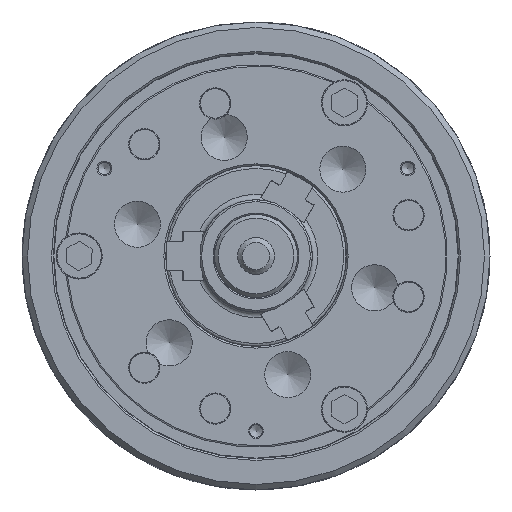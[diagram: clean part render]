
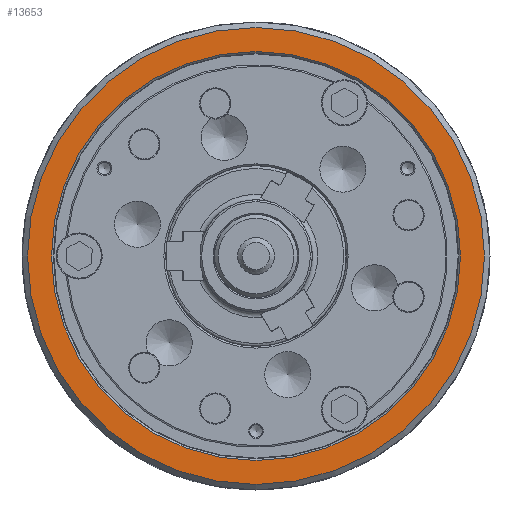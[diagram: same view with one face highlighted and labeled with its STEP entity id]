
A CAD part, left-side view. The second image highlights one B-rep face of the part: STEP entity #13653.
In plain terms, the highlighted planar face has unit normal (-1, 0, 0).
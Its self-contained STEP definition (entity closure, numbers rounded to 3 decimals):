
#831 = ORIENTED_EDGE ( 'NONE', *, *, #24139, .F. ) ;
#981 = FACE_OUTER_BOUND ( 'NONE', #25726, .T. ) ;
#1951 = CARTESIAN_POINT ( 'NONE',  ( -89., 124., 0. ) ) ;
#3182 = VERTEX_POINT ( 'NONE', #60749 ) ;
#3492 = DIRECTION ( 'NONE',  ( 0., 0., 1. ) ) ;
#3571 = DIRECTION ( 'NONE',  ( -1., 0., 0. ) ) ;
#5660 = CARTESIAN_POINT ( 'NONE',  ( -89., 0., 111. ) ) ;
#6568 = VERTEX_POINT ( 'NONE', #5660 ) ;
#7522 = PLANE ( 'NONE',  #23811 ) ;
#8892 = DIRECTION ( 'NONE',  ( 0., 0., 1. ) ) ;
#9326 = FACE_BOUND ( 'NONE', #10298, .T. ) ;
#10298 = EDGE_LOOP ( 'NONE', ( #831 ) ) ;
#11770 = ORIENTED_EDGE ( 'NONE', *, *, #51430, .T. ) ;
#13653 = ADVANCED_FACE ( 'NONE', ( #9326, #981 ), #7522, .F. ) ;
#14227 = CARTESIAN_POINT ( 'NONE',  ( -89., 0., 0. ) ) ;
#18713 = CARTESIAN_POINT ( 'NONE',  ( -89., 0., 0. ) ) ;
#19554 = DIRECTION ( 'NONE',  ( -1., 0., 0. ) ) ;
#23646 = DIRECTION ( 'NONE',  ( 0., 0., -1. ) ) ;
#23811 = AXIS2_PLACEMENT_3D ( 'NONE', #1951, #39258, #23646 ) ;
#24139 = EDGE_CURVE ( 'NONE', #6568, #6568, #68692, .T. ) ;
#24327 = AXIS2_PLACEMENT_3D ( 'NONE', #14227, #19554, #3492 ) ;
#25726 = EDGE_LOOP ( 'NONE', ( #11770 ) ) ;
#39258 = DIRECTION ( 'NONE',  ( 1., 0., 0. ) ) ;
#45041 = AXIS2_PLACEMENT_3D ( 'NONE', #18713, #3571, #8892 ) ;
#51430 = EDGE_CURVE ( 'NONE', #3182, #3182, #68771, .T. ) ;
#60749 = CARTESIAN_POINT ( 'NONE',  ( -89., 0., 124. ) ) ;
#68692 = CIRCLE ( 'NONE', #24327, 111. ) ;
#68771 = CIRCLE ( 'NONE', #45041, 124. ) ;
